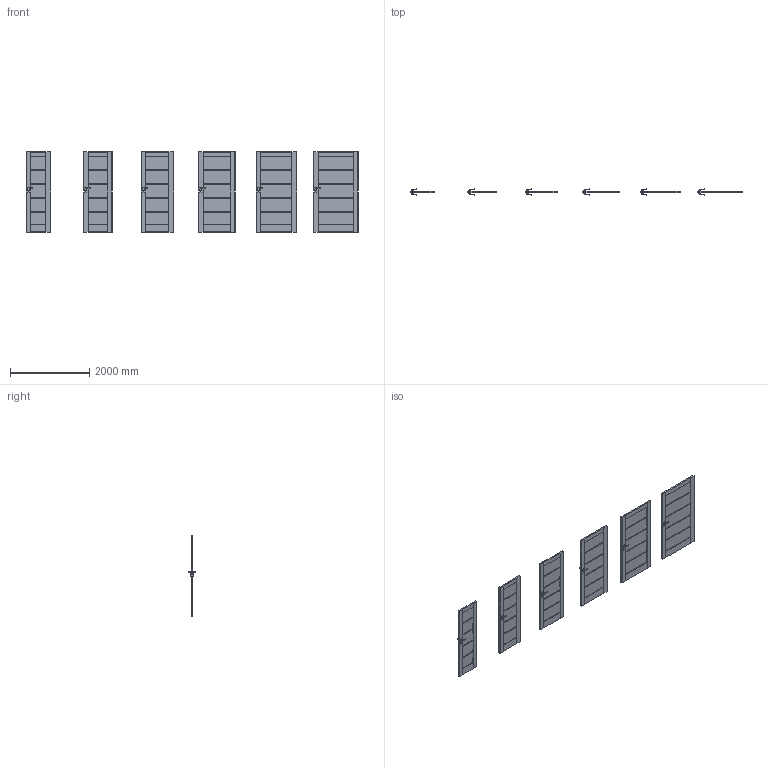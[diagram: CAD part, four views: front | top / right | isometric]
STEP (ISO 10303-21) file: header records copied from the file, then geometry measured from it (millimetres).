
FILE_DESCRIPTION(/* description */ (''),/* implementation_level */ '2;1');
FILE_NAME(/* name */ '049781_A_2-Skrzydło GRANDE model G_ polska norma _PN__ bezprzylgowe..stp',/* time_stamp */ '2024-03-18T14:33:21+01:00',/* author */ (''),/* organization */ (''),/* preprocessor_version */ 'ST-DEVELOPER v16',/* originating_system */ 'SIEMENS PLM Software NX 11.0',/* authorisation */ '');
FILE_SCHEMA (('AUTOMOTIVE_DESIGN { 1 0 10303 214 3 1 1 1 }'));
Length unit declared in the file: millimetre
Products named in the file (1): bkni455C0FDCjbm6
Bounding box: 8368 x 153.27 x 2017 mm (x, y, z)
Volume: 227984986.2 mm3; surface area: 23570478.6 mm2
Topology: 30 solids, 30 shells, 1428 faces, 3576 edges, 2088 vertices
Faces by surface type: plane 804, cylinder 264, bspline 192, sphere 168
Entity records: 47585 total; most frequent: CARTESIAN_POINT 15349, ORIENTED_EDGE 6816, DIRECTION 6242, EDGE_CURVE 3408, LINE 2328, VECTOR 2328, VERTEX_POINT 2088, AXIS2_PLACEMENT_3D 1957
